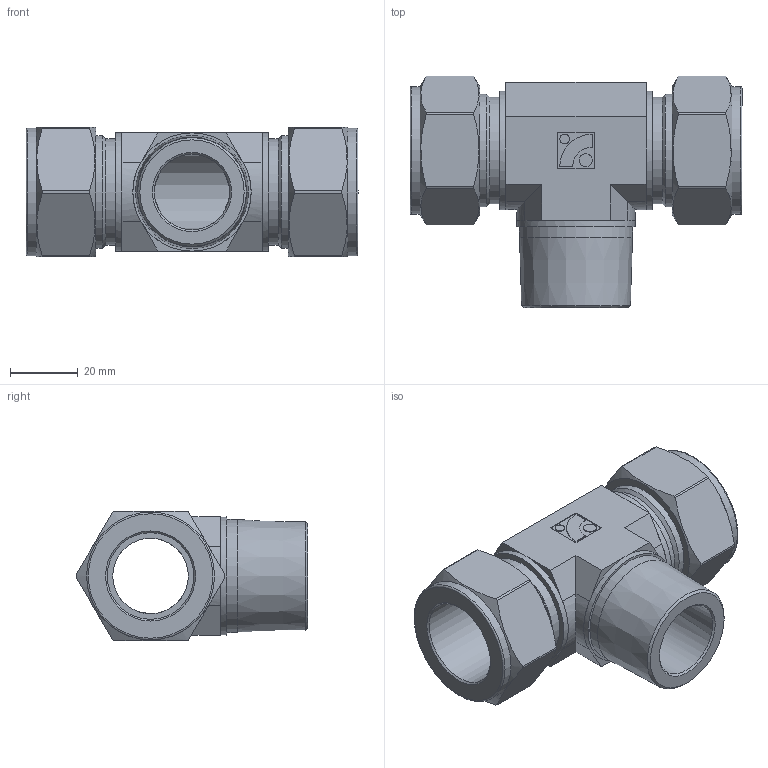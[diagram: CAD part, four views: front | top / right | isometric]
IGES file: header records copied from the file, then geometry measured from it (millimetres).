
Global section: file name: No Iges File Name specified; native system: Autodesk Inventor 2012; preprocessor: AutoDesk Inventor Iges Exporter R2012; author: 硅己绕,,1; organization: 1; date: 20150815.155245; units: millimetre
Bounding box: 98.12 x 68.5 x 38.4 mm (x, y, z)
Volume: 74642.7 mm3; surface area: 27465.6 mm2
Topology: 1 solids, 1 shells, 119 faces, 278 edges, 171 vertices
Faces by surface type: plane 72, cylinder 29, revolution 8, cone 8, torus 2
Full cylindrical faces by diameter (mm): 2.889 x1, 3.852 x1, 31.45 x2, 33.34 x2, 33.4 x1, 34.93 x3, 37.8 x2
